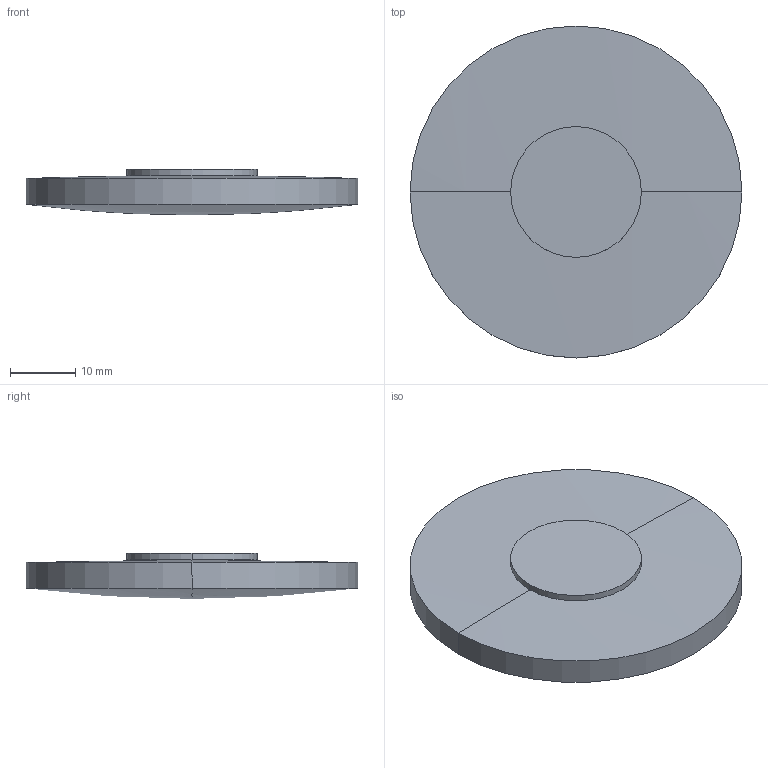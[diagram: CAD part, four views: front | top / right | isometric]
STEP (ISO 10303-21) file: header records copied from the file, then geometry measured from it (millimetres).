
FILE_DESCRIPTION(('STEP AP214'),'1');
FILE_NAME('LLR-51380.STEP','2020-03-09T17:42:04',(' '),(' '),'Spatial InterOp 3D',' ',' ');
FILE_SCHEMA(('AUTOMOTIVE_DESIGN { 1 0 10303 214 1 1 1 1 }'));
Length unit declared in the file: millimetre
Products named in the file (1): 1
Bounding box: 50.8 x 50.8 x 7 mm (x, y, z)
Volume: 10421.4 mm3; surface area: 5387.2 mm2
Topology: 2 solids, 2 shells, 10 faces, 20 edges, 10 vertices
Faces by surface type: sphere 4, cylinder 4, plane 2
Entity records: 255 total; most frequent: DIRECTION 52, CARTESIAN_POINT 38, ORIENTED_EDGE 32, AXIS2_PLACEMENT_3D 24, EDGE_CURVE 16, CIRCLE 12, ADVANCED_FACE 10, FACE_OUTER_BOUND 10
